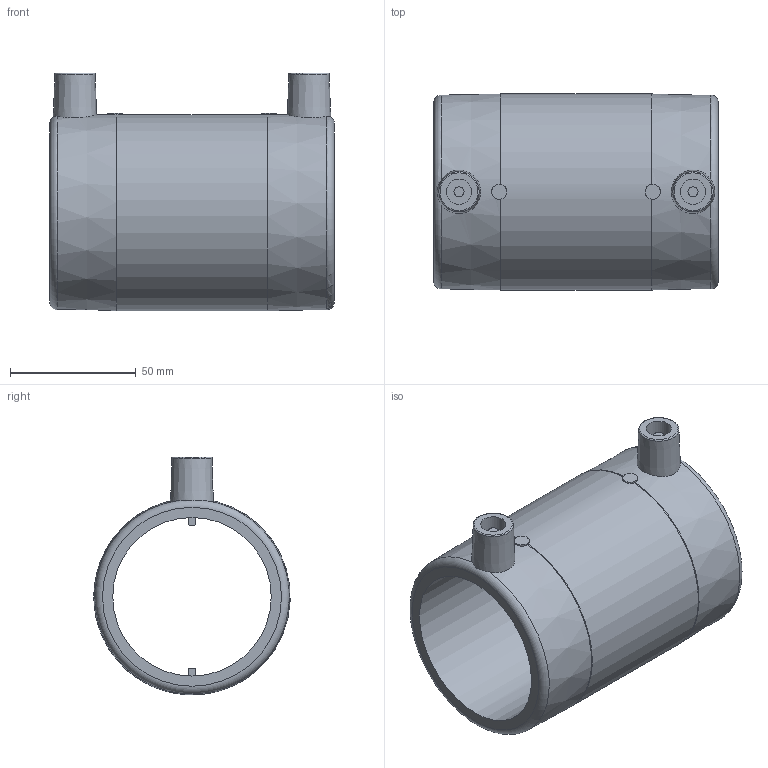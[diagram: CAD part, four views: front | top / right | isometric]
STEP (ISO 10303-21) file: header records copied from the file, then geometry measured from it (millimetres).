
FILE_DESCRIPTION(/* description */ ('Unknown'),/* implementation_level */ '2;1');
FILE_NAME(/* name */ 'MP063C',/* time_stamp */ '2021-02-10T15:20:57+01:00',/* author */ ('Unknown'),/* organization */ ('Unknown'),/* preprocessor_version */ 'ST-DEVELOPER v16.7',/* originating_system */ 'Solid Edge',/* authorisation */ 'Unknown');
FILE_SCHEMA (('AUTOMOTIVE_DESIGN {1 0 10303 214 3 1 1}'));
Length unit declared in the file: millimetre
Products named in the file (1): MP063C
Bounding box: 113 x 77.95 x 94.5 mm (x, y, z)
Volume: 189233.8 mm3; surface area: 55309.7 mm2
Topology: 1 solids, 1 shells, 42 faces, 102 edges, 67 vertices
Faces by surface type: plane 20, cylinder 12, torus 6, cone 4
Full cylindrical faces by diameter (mm): 4 x2, 6 x2, 10 x2, 63 x1, 78 x1
Entity records: 1117 total; most frequent: CARTESIAN_POINT 240, DIRECTION 182, ORIENTED_EDGE 144, AXIS2_PLACEMENT_3D 79, EDGE_CURVE 72, EDGE_LOOP 66, FACE_BOUND 66, VERTEX_POINT 54
